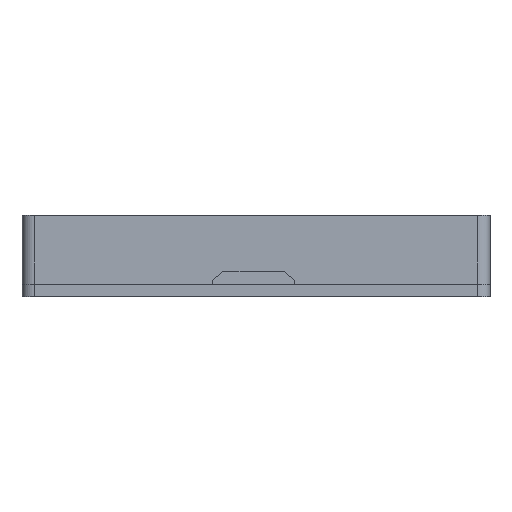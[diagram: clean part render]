
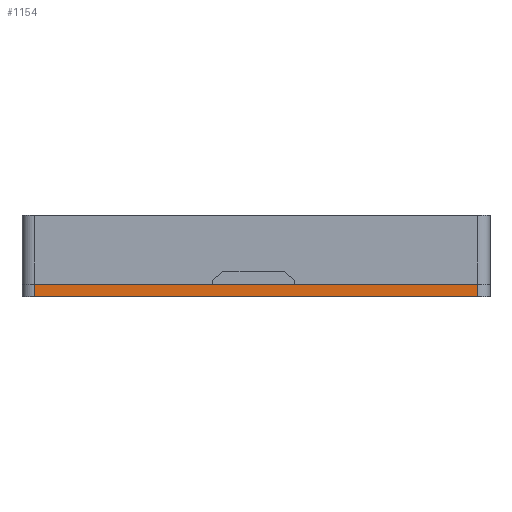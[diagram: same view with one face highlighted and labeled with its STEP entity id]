
A CAD part, front view. The second image highlights one B-rep face of the part: STEP entity #1154.
In plain terms, the highlighted planar face has unit normal (0, -1, 0).
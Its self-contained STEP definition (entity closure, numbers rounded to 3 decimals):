
#66 = PLANE('',#67);
#67 = AXIS2_PLACEMENT_3D('',#68,#69,#70);
#68 = CARTESIAN_POINT('',(-1.5,2.8,1.2));
#69 = DIRECTION('',(0.,0.,1.));
#70 = DIRECTION('',(-1.,-0.,0.));
#122 = PLANE('',#123);
#123 = AXIS2_PLACEMENT_3D('',#124,#125,#126);
#124 = CARTESIAN_POINT('',(-1.5,2.8,0.));
#125 = DIRECTION('',(0.,0.,1.));
#126 = DIRECTION('',(-1.,-0.,0.));
#150 = CYLINDRICAL_SURFACE('',#151,1.2);
#151 = AXIS2_PLACEMENT_3D('',#152,#153,#154);
#152 = CARTESIAN_POINT('',(-0.3,-21.6,0.));
#153 = DIRECTION('',(-0.,-0.,1.));
#154 = DIRECTION('',(-1.,-0.,0.));
#751 = CYLINDRICAL_SURFACE('',#752,1.2);
#752 = AXIS2_PLACEMENT_3D('',#753,#754,#755);
#753 = CARTESIAN_POINT('',(42.75,-21.6,0.));
#754 = DIRECTION('',(-0.,-0.,1.));
#755 = DIRECTION('',(1.,-0.,-0.));
#1073 = VERTEX_POINT('',#1074);
#1074 = CARTESIAN_POINT('',(42.75,-22.8,0.));
#1100 = EDGE_CURVE('',#1073,#1101,#1103,.T.);
#1101 = VERTEX_POINT('',#1102);
#1102 = CARTESIAN_POINT('',(42.75,-22.8,1.2));
#1103 = SURFACE_CURVE('',#1104,(#1108,#1115),.PCURVE_S1.);
#1104 = LINE('',#1105,#1106);
#1105 = CARTESIAN_POINT('',(42.75,-22.8,0.));
#1106 = VECTOR('',#1107,1.);
#1107 = DIRECTION('',(-0.,-0.,1.));
#1108 = PCURVE('',#751,#1109);
#1109 = DEFINITIONAL_REPRESENTATION('',(#1110),#1114);
#1110 = LINE('',#1111,#1112);
#1111 = CARTESIAN_POINT('',(-1.571,0.));
#1112 = VECTOR('',#1113,1.);
#1113 = DIRECTION('',(-0.,1.));
#1114 = ( GEOMETRIC_REPRESENTATION_CONTEXT(2) 
PARAMETRIC_REPRESENTATION_CONTEXT() REPRESENTATION_CONTEXT('2D SPACE',''
  ) );
#1115 = PCURVE('',#1116,#1121);
#1116 = PLANE('',#1117);
#1117 = AXIS2_PLACEMENT_3D('',#1118,#1119,#1120);
#1118 = CARTESIAN_POINT('',(-1.5,-22.8,0.));
#1119 = DIRECTION('',(0.,-1.,0.));
#1120 = DIRECTION('',(0.,-0.,-1.));
#1121 = DEFINITIONAL_REPRESENTATION('',(#1122),#1126);
#1122 = LINE('',#1123,#1124);
#1123 = CARTESIAN_POINT('',(-0.,44.25));
#1124 = VECTOR('',#1125,1.);
#1125 = DIRECTION('',(-1.,0.));
#1126 = ( GEOMETRIC_REPRESENTATION_CONTEXT(2) 
PARAMETRIC_REPRESENTATION_CONTEXT() REPRESENTATION_CONTEXT('2D SPACE',''
  ) );
#1154 = ADVANCED_FACE('',(#1155),#1116,.T.);
#1155 = FACE_BOUND('',#1156,.F.);
#1156 = EDGE_LOOP('',(#1157,#1180,#1203,#1224));
#1157 = ORIENTED_EDGE('',*,*,#1158,.F.);
#1158 = EDGE_CURVE('',#1159,#1073,#1161,.T.);
#1159 = VERTEX_POINT('',#1160);
#1160 = CARTESIAN_POINT('',(-0.3,-22.8,0.));
#1161 = SURFACE_CURVE('',#1162,(#1166,#1173),.PCURVE_S1.);
#1162 = LINE('',#1163,#1164);
#1163 = CARTESIAN_POINT('',(-1.5,-22.8,0.));
#1164 = VECTOR('',#1165,1.);
#1165 = DIRECTION('',(1.,0.,0.));
#1166 = PCURVE('',#1116,#1167);
#1167 = DEFINITIONAL_REPRESENTATION('',(#1168),#1172);
#1168 = LINE('',#1169,#1170);
#1169 = CARTESIAN_POINT('',(-0.,0.));
#1170 = VECTOR('',#1171,1.);
#1171 = DIRECTION('',(-0.,1.));
#1172 = ( GEOMETRIC_REPRESENTATION_CONTEXT(2) 
PARAMETRIC_REPRESENTATION_CONTEXT() REPRESENTATION_CONTEXT('2D SPACE',''
  ) );
#1173 = PCURVE('',#122,#1174);
#1174 = DEFINITIONAL_REPRESENTATION('',(#1175),#1179);
#1175 = LINE('',#1176,#1177);
#1176 = CARTESIAN_POINT('',(-0.,25.6));
#1177 = VECTOR('',#1178,1.);
#1178 = DIRECTION('',(-1.,-0.));
#1179 = ( GEOMETRIC_REPRESENTATION_CONTEXT(2) 
PARAMETRIC_REPRESENTATION_CONTEXT() REPRESENTATION_CONTEXT('2D SPACE',''
  ) );
#1180 = ORIENTED_EDGE('',*,*,#1181,.T.);
#1181 = EDGE_CURVE('',#1159,#1182,#1184,.T.);
#1182 = VERTEX_POINT('',#1183);
#1183 = CARTESIAN_POINT('',(-0.3,-22.8,1.2));
#1184 = SURFACE_CURVE('',#1185,(#1189,#1196),.PCURVE_S1.);
#1185 = LINE('',#1186,#1187);
#1186 = CARTESIAN_POINT('',(-0.3,-22.8,0.));
#1187 = VECTOR('',#1188,1.);
#1188 = DIRECTION('',(-0.,-0.,1.));
#1189 = PCURVE('',#1116,#1190);
#1190 = DEFINITIONAL_REPRESENTATION('',(#1191),#1195);
#1191 = LINE('',#1192,#1193);
#1192 = CARTESIAN_POINT('',(-0.,1.2));
#1193 = VECTOR('',#1194,1.);
#1194 = DIRECTION('',(-1.,0.));
#1195 = ( GEOMETRIC_REPRESENTATION_CONTEXT(2) 
PARAMETRIC_REPRESENTATION_CONTEXT() REPRESENTATION_CONTEXT('2D SPACE',''
  ) );
#1196 = PCURVE('',#150,#1197);
#1197 = DEFINITIONAL_REPRESENTATION('',(#1198),#1202);
#1198 = LINE('',#1199,#1200);
#1199 = CARTESIAN_POINT('',(1.571,0.));
#1200 = VECTOR('',#1201,1.);
#1201 = DIRECTION('',(0.,1.));
#1202 = ( GEOMETRIC_REPRESENTATION_CONTEXT(2) 
PARAMETRIC_REPRESENTATION_CONTEXT() REPRESENTATION_CONTEXT('2D SPACE',''
  ) );
#1203 = ORIENTED_EDGE('',*,*,#1204,.T.);
#1204 = EDGE_CURVE('',#1182,#1101,#1205,.T.);
#1205 = SURFACE_CURVE('',#1206,(#1210,#1217),.PCURVE_S1.);
#1206 = LINE('',#1207,#1208);
#1207 = CARTESIAN_POINT('',(-1.5,-22.8,1.2));
#1208 = VECTOR('',#1209,1.);
#1209 = DIRECTION('',(1.,0.,0.));
#1210 = PCURVE('',#1116,#1211);
#1211 = DEFINITIONAL_REPRESENTATION('',(#1212),#1216);
#1212 = LINE('',#1213,#1214);
#1213 = CARTESIAN_POINT('',(-1.2,0.));
#1214 = VECTOR('',#1215,1.);
#1215 = DIRECTION('',(-0.,1.));
#1216 = ( GEOMETRIC_REPRESENTATION_CONTEXT(2) 
PARAMETRIC_REPRESENTATION_CONTEXT() REPRESENTATION_CONTEXT('2D SPACE',''
  ) );
#1217 = PCURVE('',#66,#1218);
#1218 = DEFINITIONAL_REPRESENTATION('',(#1219),#1223);
#1219 = LINE('',#1220,#1221);
#1220 = CARTESIAN_POINT('',(-0.,25.6));
#1221 = VECTOR('',#1222,1.);
#1222 = DIRECTION('',(-1.,-0.));
#1223 = ( GEOMETRIC_REPRESENTATION_CONTEXT(2) 
PARAMETRIC_REPRESENTATION_CONTEXT() REPRESENTATION_CONTEXT('2D SPACE',''
  ) );
#1224 = ORIENTED_EDGE('',*,*,#1100,.F.);
